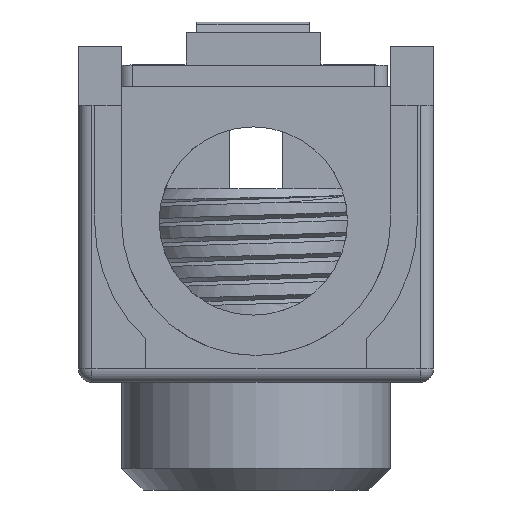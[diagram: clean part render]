
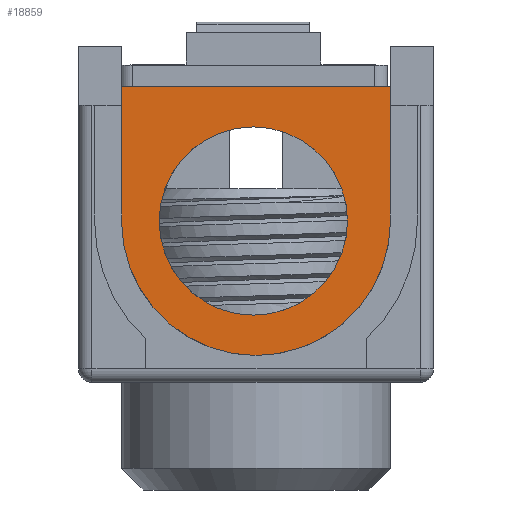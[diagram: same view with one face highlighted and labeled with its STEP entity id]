
A CAD part, front view. The second image highlights one B-rep face of the part: STEP entity #18859.
In plain terms, the highlighted planar face has unit normal (0, -1, 0).
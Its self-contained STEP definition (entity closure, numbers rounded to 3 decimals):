
#113 = AXIS2_PLACEMENT_3D ( 'NONE', #23167, #11317, #25153 ) ;
#285 = DIRECTION ( 'NONE',  ( 0., -1., 0. ) ) ;
#787 = DIRECTION ( 'NONE',  ( 0., 1., 0. ) ) ;
#915 = FACE_BOUND ( 'NONE', #1477, .T. ) ;
#1119 = VECTOR ( 'NONE', #5468, 1000. ) ;
#1477 = EDGE_LOOP ( 'NONE', ( #19831, #23978 ) ) ;
#1689 = CARTESIAN_POINT ( 'NONE',  ( 4.469, -3.524, 24.25 ) ) ;
#1794 = VERTEX_POINT ( 'NONE', #2572 ) ;
#2055 = VECTOR ( 'NONE', #22925, 1000. ) ;
#2572 = CARTESIAN_POINT ( 'NONE',  ( 4.069, -3.524, 24.25 ) ) ;
#2918 = CARTESIAN_POINT ( 'NONE',  ( -5.931, -3.524, 19.25 ) ) ;
#3024 = EDGE_CURVE ( 'NONE', #10519, #8515, #5783, .T. ) ;
#3069 = CIRCLE ( 'NONE', #20362, 5. ) ;
#3284 = CARTESIAN_POINT ( 'NONE',  ( 0.498, -3.524, 14.459 ) ) ;
#3624 = LINE ( 'NONE', #7278, #18804 ) ;
#3841 =( BOUNDED_CURVE ( )  B_SPLINE_CURVE ( 2, ( #3284, #5296, #19116 ),
 .UNSPECIFIED., .F., .F. ) 
 B_SPLINE_CURVE_WITH_KNOTS ( ( 3, 3 ),
 ( 1.538, 1.893 ),
 .UNSPECIFIED. ) 
 CURVE ( )  GEOMETRIC_REPRESENTATION_ITEM ( )  RATIONAL_B_SPLINE_CURVE ( ( 1.963, 1.999, 2. ) ) 
 REPRESENTATION_ITEM ( '' )  );
#4181 = EDGE_CURVE ( 'NONE', #8996, #6876, #24031, .T. ) ;
#5219 = ORIENTED_EDGE ( 'NONE', *, *, #17432, .F. ) ;
#5296 = CARTESIAN_POINT ( 'NONE',  ( -0.255, -3.524, 14.257 ) ) ;
#5435 = CARTESIAN_POINT ( 'NONE',  ( 2.469, -3.524, 19.25 ) ) ;
#5468 = DIRECTION ( 'NONE',  ( 0., 0., -1. ) ) ;
#5673 = PLANE ( 'NONE',  #15357 ) ;
#5783 = LINE ( 'NONE', #17307, #1119 ) ;
#6355 = AXIS2_PLACEMENT_3D ( 'NONE', #12123, #285, #14111 ) ;
#6437 = CARTESIAN_POINT ( 'NONE',  ( 0.498, -3.524, 14.459 ) ) ;
#6876 = VERTEX_POINT ( 'NONE', #5435 ) ;
#7078 = CARTESIAN_POINT ( 'NONE',  ( -0.931, -3.524, 19.25 ) ) ;
#7278 = CARTESIAN_POINT ( 'NONE',  ( 4.069, -3.524, 24.25 ) ) ;
#7279 = LINE ( 'NONE', #16962, #2055 ) ;
#7663 = DIRECTION ( 'NONE',  ( 1., 0., 0. ) ) ;
#7723 = CARTESIAN_POINT ( 'NONE',  ( -0.98, -3.524, 14.25 ) ) ;
#8515 = VERTEX_POINT ( 'NONE', #2918 ) ;
#8996 = VERTEX_POINT ( 'NONE', #11450 ) ;
#9061 = DIRECTION ( 'NONE',  ( 0., 0., -1. ) ) ;
#9469 = EDGE_CURVE ( 'NONE', #13878, #1794, #7279, .T. ) ;
#9626 = ORIENTED_EDGE ( 'NONE', *, *, #9469, .T. ) ;
#9734 = AXIS2_PLACEMENT_3D ( 'NONE', #12623, #787, #14626 ) ;
#9795 = CIRCLE ( 'NONE', #113, 3.5 ) ;
#10519 = VERTEX_POINT ( 'NONE', #24263 ) ;
#10977 = EDGE_CURVE ( 'NONE', #6876, #8996, #9795, .T. ) ;
#11317 = DIRECTION ( 'NONE',  ( 0., -1., 0. ) ) ;
#11450 = CARTESIAN_POINT ( 'NONE',  ( -4.531, -3.524, 19.25 ) ) ;
#12123 = CARTESIAN_POINT ( 'NONE',  ( -1.031, -3.524, 19.25 ) ) ;
#12242 = EDGE_CURVE ( 'NONE', #20389, #20257, #3841, .T. ) ;
#12623 = CARTESIAN_POINT ( 'NONE',  ( -0.931, -3.524, 19.25 ) ) ;
#13878 = VERTEX_POINT ( 'NONE', #15191 ) ;
#14111 = DIRECTION ( 'NONE',  ( -1., 0., 0. ) ) ;
#14626 = DIRECTION ( 'NONE',  ( 0., 0., -1. ) ) ;
#15191 = CARTESIAN_POINT ( 'NONE',  ( 4.069, -3.524, 19.25 ) ) ;
#15357 = AXIS2_PLACEMENT_3D ( 'NONE', #1689, #19507, #7663 ) ;
#15478 = ORIENTED_EDGE ( 'NONE', *, *, #17766, .F. ) ;
#16084 = FACE_OUTER_BOUND ( 'NONE', #24166, .T. ) ;
#16179 = ORIENTED_EDGE ( 'NONE', *, *, #3024, .T. ) ;
#16962 = CARTESIAN_POINT ( 'NONE',  ( 4.069, -3.524, 19.25 ) ) ;
#17307 = CARTESIAN_POINT ( 'NONE',  ( -5.931, -3.524, 24.25 ) ) ;
#17432 = EDGE_CURVE ( 'NONE', #20257, #8515, #20132, .T. ) ;
#17766 = EDGE_CURVE ( 'NONE', #13878, #20389, #3069, .T. ) ;
#18804 = VECTOR ( 'NONE', #21102, 1000. ) ;
#18859 = ADVANCED_FACE ( 'NONE', ( #915, #16084 ), #5673, .T. ) ;
#19116 = CARTESIAN_POINT ( 'NONE',  ( -0.98, -3.524, 14.25 ) ) ;
#19507 = DIRECTION ( 'NONE',  ( 0., -1., 0. ) ) ;
#19831 = ORIENTED_EDGE ( 'NONE', *, *, #10977, .F. ) ;
#20132 = CIRCLE ( 'NONE', #9734, 5. ) ;
#20257 = VERTEX_POINT ( 'NONE', #7723 ) ;
#20362 = AXIS2_PLACEMENT_3D ( 'NONE', #7078, #20897, #9061 ) ;
#20389 = VERTEX_POINT ( 'NONE', #6437 ) ;
#20888 = ORIENTED_EDGE ( 'NONE', *, *, #23407, .T. ) ;
#20897 = DIRECTION ( 'NONE',  ( 0., 1., 0. ) ) ;
#21102 = DIRECTION ( 'NONE',  ( -1., 0., 0. ) ) ;
#22925 = DIRECTION ( 'NONE',  ( 0., 0., 1. ) ) ;
#23167 = CARTESIAN_POINT ( 'NONE',  ( -1.031, -3.524, 19.25 ) ) ;
#23190 = ORIENTED_EDGE ( 'NONE', *, *, #12242, .F. ) ;
#23407 = EDGE_CURVE ( 'NONE', #1794, #10519, #3624, .T. ) ;
#23978 = ORIENTED_EDGE ( 'NONE', *, *, #4181, .F. ) ;
#24031 = CIRCLE ( 'NONE', #6355, 3.5 ) ;
#24166 = EDGE_LOOP ( 'NONE', ( #15478, #9626, #20888, #16179, #5219, #23190 ) ) ;
#24263 = CARTESIAN_POINT ( 'NONE',  ( -5.931, -3.524, 24.25 ) ) ;
#25153 = DIRECTION ( 'NONE',  ( -1., 0., 0. ) ) ;
